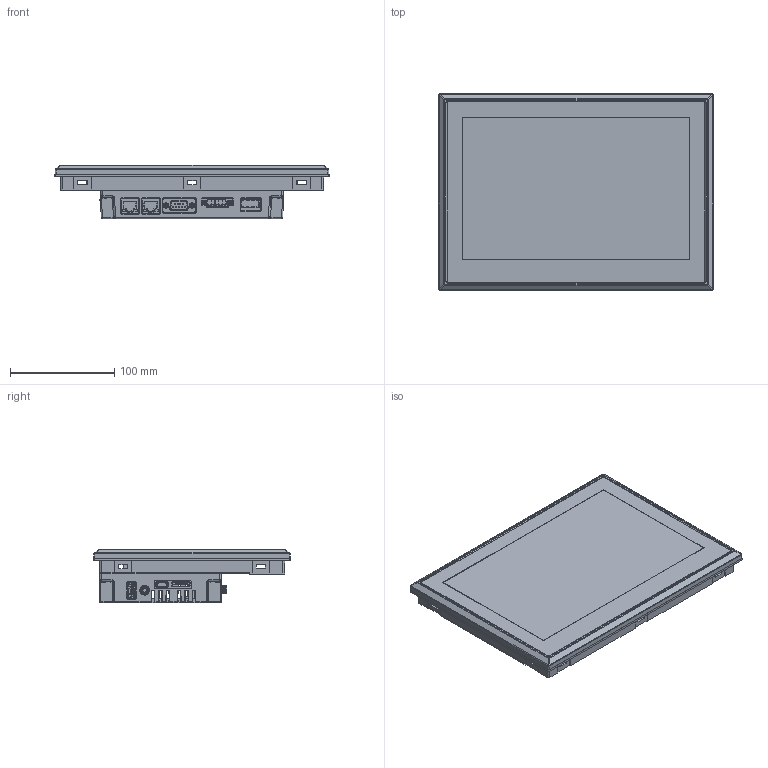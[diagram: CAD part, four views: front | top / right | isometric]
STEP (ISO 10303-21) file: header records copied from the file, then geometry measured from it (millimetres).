
FILE_DESCRIPTION (( 'STEP AP203' ), '1' );
FILE_NAME ('CM-eXT2-10W-DF.STEP', '2025-06-27T06:43:24', ( '' ), ( '' ), 'SwSTEP 2.0', 'SolidWorks 2024', '' );
FILE_SCHEMA (( 'CONFIG_CONTROL_DESIGN' ));
Products named in the file (1): CM-eXT2-10W-DF
Bounding box: 262.55 x 188.19 x 51.6 mm (x, y, z)
Volume: 406258.3 mm3; surface area: 311069 mm2
Topology: 1 solids, 17 shells, 6562 faces, 18006 edges, 11594 vertices
Faces by surface type: plane 3976, cylinder 1398, bspline 760, cone 241, sphere 96, torus 91
Entity records: 245272 total; most frequent: CARTESIAN_POINT 84728, ORIENTED_EDGE 35912, DIRECTION 29721, EDGE_CURVE 17956, LINE 12361, VECTOR 12361, VERTEX_POINT 11576, AXIS2_PLACEMENT_3D 8680
